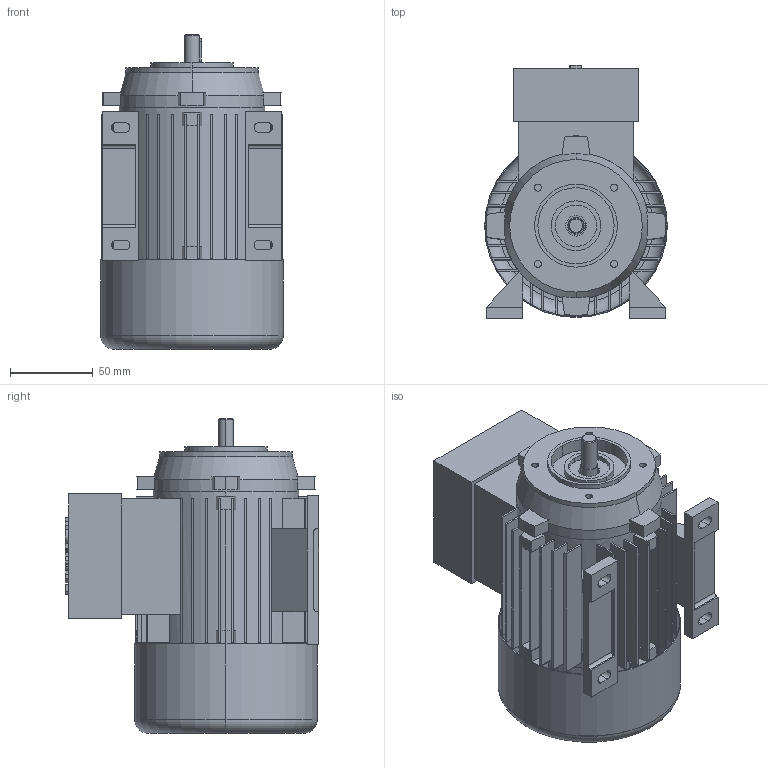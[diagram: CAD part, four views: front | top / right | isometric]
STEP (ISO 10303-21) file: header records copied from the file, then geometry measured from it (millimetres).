
FILE_DESCRIPTION (( 'STEP AP214' ), '1' );
FILE_NAME ('5AZ 56 B34 standk.STEP', '2018-07-16T07:49:49', ( '' ), ( '' ), 'SwSTEP 2.0', 'SolidWorks 2018', '' );
FILE_SCHEMA (( 'AUTOMOTIVE_DESIGN' ));
Length unit declared in the file: millimetre
Products named in the file (1): 5AZ 56 B34 standk
Bounding box: 110.2 x 153 x 190 mm (x, y, z)
Volume: 602826.2 mm3; surface area: 260681.7 mm2
Topology: 7 solids, 7 shells, 569 faces, 1478 edges, 975 vertices
Faces by surface type: plane 402, cylinder 146, bspline 9, cone 8, torus 4
Entity records: 17710 total; most frequent: CARTESIAN_POINT 3236, DIRECTION 2989, ORIENTED_EDGE 2956, EDGE_CURVE 1478, VECTOR 1013, LINE 1013, AXIS2_PLACEMENT_3D 988, VERTEX_POINT 975
